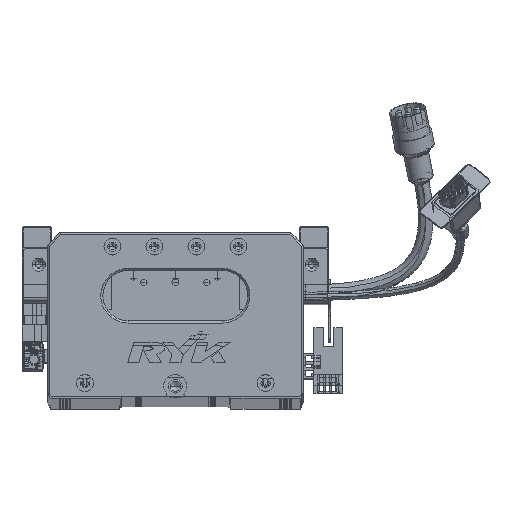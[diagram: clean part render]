
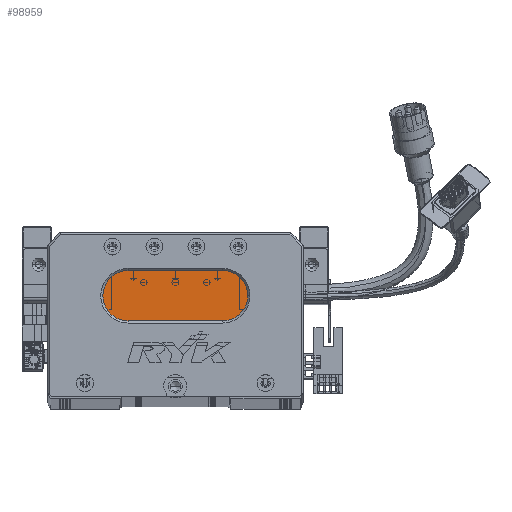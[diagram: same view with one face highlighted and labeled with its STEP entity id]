
A CAD part, top view. The second image highlights one B-rep face of the part: STEP entity #98959.
In plain terms, the highlighted planar face has unit normal (0, 0, 1) as drawn and (0, 0, -1) by its records, which use the part's own axes.
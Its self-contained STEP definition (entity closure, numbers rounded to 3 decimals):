
#545 = EDGE_LOOP ( 'NONE', ( #45307, #78686, #30092, #44686, #4397 ) ) ;
#776 = CIRCLE ( 'NONE', #95750, 12. ) ;
#4397 = ORIENTED_EDGE ( 'NONE', *, *, #41500, .T. ) ;
#12043 = VECTOR ( 'NONE', #54776, 1000. ) ;
#17606 = AXIS2_PLACEMENT_3D ( 'NONE', #102482, #74465, #114446 ) ;
#17687 = DIRECTION ( 'NONE',  ( 0., 0., -1. ) ) ;
#18564 = VECTOR ( 'NONE', #101877, 1000. ) ;
#18806 = DIRECTION ( 'NONE',  ( 0., 0., -1. ) ) ;
#20562 = CARTESIAN_POINT ( 'NONE',  ( 83.5, 60., 13. ) ) ;
#27931 = DIRECTION ( 'NONE',  ( -1., 0., 0. ) ) ;
#28228 = CARTESIAN_POINT ( 'NONE',  ( 83.5, 48., 13. ) ) ;
#30092 = ORIENTED_EDGE ( 'NONE', *, *, #34067, .T. ) ;
#34067 = EDGE_CURVE ( 'NONE', #53853, #81505, #113394, .T. ) ;
#35382 = LINE ( 'NONE', #110869, #18564 ) ;
#41500 = EDGE_CURVE ( 'NONE', #104147, #98194, #35382, .T. ) ;
#44461 = CARTESIAN_POINT ( 'NONE',  ( 83.5, 36., 13. ) ) ;
#44686 = ORIENTED_EDGE ( 'NONE', *, *, #58812, .T. ) ;
#45307 = ORIENTED_EDGE ( 'NONE', *, *, #65317, .T. ) ;
#45836 = CIRCLE ( 'NONE', #57031, 12. ) ;
#46202 = AXIS2_PLACEMENT_3D ( 'NONE', #66574, #17687, #27931 ) ;
#49791 = DIRECTION ( 'NONE',  ( -1., 0., 0. ) ) ;
#50811 = CARTESIAN_POINT ( 'NONE',  ( 26.5, 48., 13. ) ) ;
#53853 = VERTEX_POINT ( 'NONE', #99824 ) ;
#54776 = DIRECTION ( 'NONE',  ( -1., 0., 0. ) ) ;
#57031 = AXIS2_PLACEMENT_3D ( 'NONE', #28228, #18806, #78090 ) ;
#58812 = EDGE_CURVE ( 'NONE', #81505, #104147, #776, .T. ) ;
#62001 = PLANE ( 'NONE',  #17606 ) ;
#62085 = CARTESIAN_POINT ( 'NONE',  ( 38.5, 60., 13. ) ) ;
#65317 = EDGE_CURVE ( 'NONE', #98194, #86330, #45836, .T. ) ;
#66574 = CARTESIAN_POINT ( 'NONE',  ( 38.5, 48., 13. ) ) ;
#67072 = EDGE_CURVE ( 'NONE', #86330, #53853, #115145, .T. ) ;
#74465 = DIRECTION ( 'NONE',  ( 0., 0., -1. ) ) ;
#78090 = DIRECTION ( 'NONE',  ( -1., 0., 0. ) ) ;
#78686 = ORIENTED_EDGE ( 'NONE', *, *, #67072, .T. ) ;
#79480 = DIRECTION ( 'NONE',  ( 0., 0., -1. ) ) ;
#81505 = VERTEX_POINT ( 'NONE', #50811 ) ;
#86330 = VERTEX_POINT ( 'NONE', #99092 ) ;
#86612 = FACE_OUTER_BOUND ( 'NONE', #545, .T. ) ;
#95750 = AXIS2_PLACEMENT_3D ( 'NONE', #109137, #79480, #49791 ) ;
#98194 = VERTEX_POINT ( 'NONE', #20562 ) ;
#98959 = ADVANCED_FACE ( 'NONE', ( #86612 ), #62001, .T. ) ;
#99092 = CARTESIAN_POINT ( 'NONE',  ( 83.5, 36., 13. ) ) ;
#99824 = CARTESIAN_POINT ( 'NONE',  ( 38.5, 36., 13. ) ) ;
#101877 = DIRECTION ( 'NONE',  ( 1., 0., 0. ) ) ;
#102482 = CARTESIAN_POINT ( 'NONE',  ( 83.5, 48., 13. ) ) ;
#104147 = VERTEX_POINT ( 'NONE', #62085 ) ;
#109137 = CARTESIAN_POINT ( 'NONE',  ( 38.5, 48., 13. ) ) ;
#110869 = CARTESIAN_POINT ( 'NONE',  ( 83.5, 60., 13. ) ) ;
#113394 = CIRCLE ( 'NONE', #46202, 12. ) ;
#114446 = DIRECTION ( 'NONE',  ( -1., 0., 0. ) ) ;
#115145 = LINE ( 'NONE', #44461, #12043 ) ;
